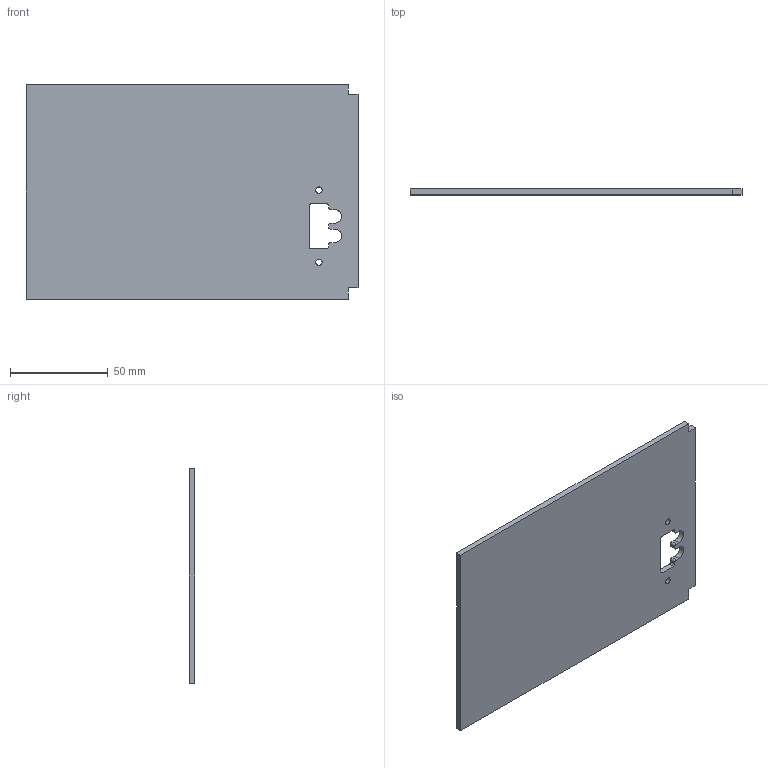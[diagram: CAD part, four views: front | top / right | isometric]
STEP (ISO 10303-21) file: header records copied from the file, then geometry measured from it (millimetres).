
FILE_DESCRIPTION(/* description */ (''),/* implementation_level */ '2;1');
FILE_NAME(/* name */ '3.frame-top#3.3#la-pan-2',/* time_stamp */ '2014-12-01T20:12:12+01:00',/* author */ (''),/* organization */ (''),/* preprocessor_version */ 'ST-DEVELOPER v14',/* originating_system */ '',/* authorisation */ '');
FILE_SCHEMA (('AUTOMOTIVE_DESIGN'));
Length unit declared in the file: millimetre
Products named in the file (1): Document
Bounding box: 170 x 3 x 110 mm (x, y, z)
Volume: 54954.1 mm3; surface area: 38625 mm2
Topology: 1 solids, 1 shells, 34 faces, 96 edges, 64 vertices
Faces by surface type: plane 20, bspline 14
Entity records: 2165 total; most frequent: CARTESIAN_POINT 906, B_SPLINE_CURVE_WITH_KNOTS 219, ORIENTED_EDGE 192, PCURVE 192, DEFINITIONAL_REPRESENTATION 192, SURFACE_CURVE 96, EDGE_CURVE 96, VERTEX_POINT 64
